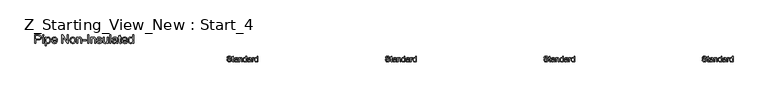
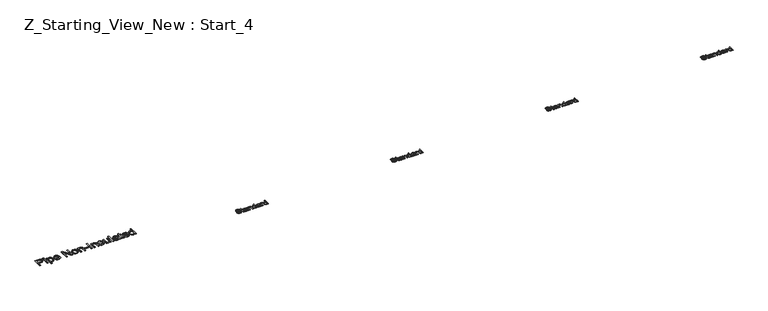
"""IFC4 building model written with IfcOpenShell, lengths in millimetres: pipe fitting geometry, Z_Starting_View_New : Start_4."""

from ifc_helpers import new_model, si_unit, origin, origin_with_axes, place, context, project, spatial, polyline, outline, extrude, source, transform, mapped, element, save


def z_starting_view_new_start_4_688b219d(model_context):
    return source(origin(), model_context, "Body", "SweptSolid", [
        extrude(outline(polyline([(21762.9874325, 7445.7857303), (21762.9874325, 7596.4701955), (21818.8319194, 7596.4701955), (21841.3462975, 7595.0354557), (21859.6484268, 7587.9905155), (21871.5126211, 7573.4223885), (21876.0007815, 7552.8761791), (21872.9703535, 7535.1166757), (21863.8790697, 7520.3186225), (21846.878323, 7510.3306263), (21820.1195064, 7507.0012943), (21781.8229907, 7507.0012943), (21781.8229907, 7445.7857303), (21762.9874325, 7445.7857303)]), holes=[polyline([(21781.8229907, 7525.8368524), (21821.2231524, 7525.8368524), (21837.924995, 7527.5658978), (21848.9614548, 7532.7530339), (21855.1142812, 7541.0763641), (21857.1652233, 7552.2139915), (21852.3275751, 7567.8121881), (21839.6172521, 7576.3470504), (21820.781694, 7577.6346373), (21781.8229907, 7577.6346373), (21781.8229907, 7525.8368524)])]), origin_with_axes(), (0.0, 0.0, 1.0), 5.0),
        extrude(outline(polyline([(21899.5452292, 7445.7857303), (21899.5452292, 7556.4446344), (21918.3807873, 7556.4446344), (21918.3807873, 7445.7857303), (21899.5452292, 7445.7857303)])), origin_with_axes(), (0.0, 0.0, 1.0), 5.0),
        extrude(outline(polyline([(21899.5452292, 7577.6346373), (21899.5452292, 7596.4701955), (21918.3807873, 7596.4701955), (21918.3807873, 7577.6346373), (21899.5452292, 7577.6346373)])), origin_with_axes(), (0.0, 0.0, 1.0), 5.0),
        extrude(outline(polyline([(21946.6341245, 7403.4057244), (21946.6341245, 7556.4446344), (21965.4696827, 7556.4446344), (21965.4696827, 7537.9769583), (21978.4927053, 7553.593549), (21996.0774647, 7558.7990792), (22008.8153788, 7556.9780633), (22019.9530062, 7551.5150157), (22029.0212974, 7542.7410301), (22035.5512028, 7530.9872003), (22040.8119153, 7501.9613109), (22039.3265917, 7485.8526781), (22034.8706211, 7471.4454994), (22027.5865576, 7459.4709405), (22017.6169555, 7450.6601667), (22006.00568, 7445.2385058), (21993.7965963, 7443.4312855), (21977.4074534, 7448.2689337), (21965.4696827, 7460.5010101), (21965.4696827, 7403.4057244), (21946.6341245, 7403.4057244)]), holes=[polyline([(21965.4696827, 7500.2322656), (21967.5068292, 7483.346482), (21973.6182689, 7471.5374699), (21982.6359763, 7464.5845002), (21993.3919261, 7462.2668436), (22004.3226199, 7464.6672737), (22013.5702536, 7471.8685637), (22019.8748313, 7484.1098371), (22021.9763572, 7501.6302171), (22019.925415, 7518.4240302), (22013.7725887, 7530.3985892), (22004.7686768, 7537.5722881), (21994.1644783, 7539.963521), (21983.5188931, 7537.4205367), (21974.1700919, 7529.7915839), (21967.644785, 7517.3157857), (21965.4696827, 7500.2322656)])]), origin_with_axes(), (0.0, 0.0, 1.0), 5.0),
        extrude(outline(polyline([(22139.4778664, 7478.747957), (22157.9455426, 7476.3935123), (22151.291477, 7462.4783758), (22140.6734829, 7452.0765124), (22126.3306836, 7445.5925922), (22108.5022024, 7443.4312855), (22086.4016916, 7447.1606892), (22069.3963463, 7458.3489004), (22058.5530245, 7476.2693521), (22054.9385839, 7500.1954774), (22058.5898127, 7524.9263445), (22069.5434991, 7543.4216118), (22086.3189181, 7554.9547123), (22107.4353446, 7558.7990792), (22127.8941821, 7554.9639094), (22144.2419382, 7543.4584), (22154.9610999, 7524.9999209), (22158.5341538, 7500.305842), (22158.4237892, 7495.2290704), (22073.7741421, 7495.2290704), (22077.0344963, 7481.129993), (22084.6082668, 7470.7649177), (22095.5389606, 7464.3913622), (22108.8700844, 7462.2668436), (22127.3377606, 7466.203181), (22139.4778664, 7478.747957)]), holes=[polyline([(22073.7741421, 7514.0646286), (22139.6985956, 7514.0646286), (22137.1510128, 7524.0158365), (22132.1570147, 7531.1343531), (22121.1757371, 7537.7562291), (22107.3617682, 7539.963521), (22094.6652409, 7538.202286), (22084.1668084, 7532.9185808), (22076.8689494, 7524.6826227), (22073.7741421, 7514.0646286)])]), origin_with_axes(), (0.0, 0.0, 1.0), 5.0),
        extrude(outline(polyline([(22238.5852759, 7445.7857303), (22238.5852759, 7596.4701955), (22258.7452092, 7596.4701955), (22337.4719562, 7477.0924881), (22337.4719562, 7596.4701955), (22356.3075144, 7596.4701955), (22356.3075144, 7445.7857303), (22336.147581, 7445.7857303), (22257.4208341, 7565.2002259), (22257.4208341, 7445.7857303), (22238.5852759, 7445.7857303)])), origin_with_axes(), (0.0, 0.0, 1.0), 5.0),
        extrude(outline(polyline([(22382.2064068, 7501.1151823), (22386.2806999, 7527.795824), (22398.5035792, 7546.5486087), (22413.6051351, 7555.7364616), (22431.6865352, 7558.7990792), (22451.473988, 7555.0696755), (22467.2791182, 7543.8814643), (22477.6395949, 7526.1173624), (22481.0930871, 7502.6602867), (22479.5663769, 7483.6315905), (22474.986246, 7469.146237), (22467.4860518, 7458.2983166), (22457.1991515, 7450.1819201), (22444.9808708, 7445.1189441), (22431.6865352, 7443.4312855), (22411.6599591, 7447.1468936), (22395.8732229, 7458.2937181), (22385.6231109, 7476.4303005), (22382.2064068, 7501.1151823)]), holes=[polyline([(22401.041965, 7501.1519705), (22403.2216658, 7484.1052386), (22409.7607683, 7471.9605342), (22419.6016116, 7464.6902663), (22431.6865352, 7462.2668436), (22443.7162764, 7464.7040619), (22453.5387257, 7472.0157165), (22460.0778282, 7484.3213693), (22462.257529, 7501.7405817), (22460.0640326, 7518.290673), (22453.4835434, 7530.2698305), (22443.6472985, 7537.5400984), (22431.6865352, 7539.963521), (22419.6016116, 7537.5492954), (22409.7607683, 7530.3066187), (22403.2216658, 7518.1895054), (22401.041965, 7501.1519705)])]), origin_with_axes(), (0.0, 0.0, 1.0), 5.0),
        extrude(outline(polyline([(22502.2830901, 7445.7857303), (22502.2830901, 7556.4446344), (22521.1186482, 7556.4446344), (22521.1186482, 7540.9935906), (22535.5212283, 7554.347707), (22555.184521, 7558.7990792), (22572.9716154, 7555.2122297), (22585.1117213, 7545.7944507), (22590.7587099, 7531.9436935), (22591.7519913, 7513.7335348), (22591.7519913, 7445.7857303), (22572.9164331, 7445.7857303), (22572.9164331, 7511.195149), (22570.7459294, 7527.8602034), (22563.0755898, 7536.6709772), (22550.1445376, 7539.963521), (22539.1126763, 7538.114914), (22529.7086928, 7532.5690929), (22523.2661594, 7521.8545298), (22521.1186482, 7504.4996967), (22521.1186482, 7445.7857303), (22502.2830901, 7445.7857303)])), origin_with_axes(), (0.0, 0.0, 1.0), 5.0),
        extrude(outline(polyline([(22608.2331047, 7490.5201809), (22608.2331047, 7509.355739), (22667.0942239, 7509.355739), (22667.0942239, 7490.5201809), (22608.2331047, 7490.5201809)])), origin_with_axes(), (0.0, 0.0, 1.0), 5.0),
        extrude(outline(polyline([(22692.9931164, 7445.7857303), (22692.9931164, 7596.4701955), (22711.8286745, 7596.4701955), (22711.8286745, 7445.7857303), (22692.9931164, 7445.7857303)])), origin_with_axes(), (0.0, 0.0, 1.0), 5.0),
        extrude(outline(polyline([(22747.145346, 7445.7857303), (22747.145346, 7556.4446344), (22765.9809042, 7556.4446344), (22765.9809042, 7540.9935906), (22780.3834843, 7554.347707), (22800.0467769, 7558.7990792), (22817.8338714, 7555.2122297), (22829.9739773, 7545.7944507), (22835.6209659, 7531.9436935), (22836.6142473, 7513.7335348), (22836.6142473, 7445.7857303), (22817.7786891, 7445.7857303), (22817.7786891, 7511.195149), (22815.6081853, 7527.8602034), (22807.9378457, 7536.6709772), (22795.0067936, 7539.963521), (22783.9749323, 7538.114914), (22774.5709488, 7532.5690929), (22768.1284153, 7521.8545298), (22765.9809042, 7504.4996967), (22765.9809042, 7445.7857303), (22747.145346, 7445.7857303)])), origin_with_axes(), (0.0, 0.0, 1.0), 5.0),
        extrude(outline(polyline([(22855.4498054, 7478.747957), (22874.2853636, 7481.1024018), (22877.2560107, 7473.0457861), (22883.0041669, 7467.122886), (22902.9801592, 7462.2668436), (22922.1835993, 7466.7182158), (22928.4375933, 7477.1660645), (22926.8648977, 7481.9669245), (22922.1468111, 7485.6273503), (22902.75943, 7490.9984275), (22874.3957282, 7500.2138715), (22862.016499, 7510.9744198), (22857.8042502, 7526.1679462), (22861.1887645, 7540.2026443), (22870.4226026, 7550.9264045), (22882.3971616, 7556.4998167), (22898.6023635, 7558.7990792), (22921.5214118, 7555.1018651), (22936.0895388, 7545.0954749), (22942.5642619, 7528.1912972), (22923.7287037, 7525.8368524), (22916.6469753, 7536.2295188), (22900.0738914, 7539.963521), (22882.0476737, 7536.3950657), (22876.6398083, 7528.0809326), (22878.8838885, 7522.5994909), (22885.9104346, 7518.4424243), (22902.1340306, 7514.4325106), (22929.7803625, 7505.5665545), (22942.6194442, 7495.523376), (22947.2731514, 7479.1526272), (22941.8101038, 7461.1264095), (22926.0463603, 7448.0482045), (22902.7226418, 7443.4312855), (22883.7307338, 7445.6569716), (22869.8707796, 7452.3340298), (22860.6185475, 7463.3888837), (22855.4498054, 7478.747957)])), origin_with_axes(), (0.0, 0.0, 1.0), 5.0),
        extrude(outline(polyline([(23039.0964974, 7445.7857303), (23039.0964974, 7464.8052294), (23024.3444294, 7448.7747715), (23005.1042011, 7443.4312855), (22987.390683, 7447.1836818), (22975.1770008, 7456.6014609), (22969.5668003, 7470.4706121), (22968.4631543, 7487.9817951), (22968.4631543, 7556.4446344), (22987.2987125, 7556.4446344), (22987.2987125, 7496.8477512), (22988.4391467, 7477.644311), (22995.8887571, 7466.3687279), (23009.9234552, 7462.2668436), (23025.6504105, 7466.4606984), (23036.0430769, 7477.8834343), (23039.0964974, 7498.8711022), (23039.0964974, 7556.4446344), (23057.9320556, 7556.4446344), (23057.9320556, 7445.7857303), (23039.0964974, 7445.7857303)])), origin_with_axes(), (0.0, 0.0, 1.0), 5.0),
        extrude(outline(polyline([(23083.830948, 7445.7857303), (23083.830948, 7596.4701955), (23102.6665062, 7596.4701955), (23102.6665062, 7445.7857303), (23083.830948, 7445.7857303)])), origin_with_axes(), (0.0, 0.0, 1.0), 5.0),
        extrude(outline(polyline([(23201.5531865, 7459.9123989), (23183.2878454, 7447.1468936), (23163.109518, 7443.4312855), (23147.3687671, 7445.6661686), (23135.7574916, 7452.370818), (23128.5975883, 7462.5519522), (23126.2109539, 7475.2162899), (23129.8161974, 7490.1155107), (23139.2891588, 7500.9312413), (23152.4777283, 7507.1116589), (23168.7749007, 7509.9443502), (23201.4428219, 7516.4190733), (23201.5531865, 7520.6129281), (23200.2564025, 7529.0190317), (23196.3660504, 7534.5188675), (23187.6656412, 7538.6023576), (23175.5439294, 7539.963521), (23156.4876421, 7536.3398834), (23147.4009568, 7523.4824076), (23128.5653986, 7525.8368524), (23136.7139848, 7544.2309522), (23153.1215218, 7555.0098946), (23177.9719506, 7558.7990792), (23200.7990284, 7555.451353), (23213.6932923, 7547.0452494), (23219.4690397, 7534.2613501), (23220.3887446, 7517.7802367), (23220.3887446, 7494.3461536), (23221.3452378, 7461.6230502), (23225.0976342, 7445.7857303), (23206.262076, 7445.7857303), (23201.5531865, 7459.9123989)]), holes=[polyline([(23201.5531865, 7497.5835152), (23171.1661337, 7491.8077679), (23154.9609318, 7488.7543473), (23147.621686, 7483.7879404), (23145.046512, 7476.5406651), (23150.6567125, 7466.3503338), (23167.1194317, 7462.2668436), (23186.1757191, 7466.7733981), (23198.4629777, 7477.6810992), (23201.4428219, 7492.2492263), (23201.5531865, 7497.5835152)])]), origin_with_axes(), (0.0, 0.0, 1.0), 5.0),
        extrude(outline(polyline([(23286.3131982, 7461.4942915), (23288.6676429, 7445.2339073), (23274.5777625, 7443.4312855), (23258.7956249, 7446.5582825), (23250.9229502, 7454.7620509), (23248.6420819, 7476.1359949), (23248.6420819, 7537.6090763), (23234.5154133, 7537.6090763), (23234.5154133, 7556.4446344), (23248.6420819, 7556.4446344), (23248.6420819, 7583.3368083), (23267.47764, 7594.4100563), (23267.47764, 7556.4446344), (23286.3131982, 7556.4446344), (23286.3131982, 7537.6090763), (23267.47764, 7537.6090763), (23267.47764, 7476.6878179), (23268.4709214, 7466.9757332), (23271.6898889, 7463.5360365), (23278.1094297, 7462.2668436), (23286.3131982, 7461.4942915)])), origin_with_axes(), (0.0, 0.0, 1.0), 5.0),
        extrude(outline(polyline([(23382.6247045, 7478.747957), (23401.0923807, 7476.3935123), (23394.4383151, 7462.4783758), (23383.820321, 7452.0765124), (23369.4775217, 7445.5925922), (23351.6490405, 7443.4312855), (23329.5485297, 7447.1606892), (23312.5431844, 7458.3489004), (23301.6998626, 7476.2693521), (23298.085422, 7500.1954774), (23301.7366508, 7524.9263445), (23312.6903372, 7543.4216118), (23329.4657562, 7554.9547123), (23350.5821827, 7558.7990792), (23371.0410202, 7554.9639094), (23387.3887763, 7543.4584), (23398.107938, 7524.9999209), (23401.6809919, 7500.305842), (23401.5706273, 7495.2290704), (23316.9209802, 7495.2290704), (23320.1813344, 7481.129993), (23327.7551049, 7470.7649177), (23338.6857987, 7464.3913622), (23352.0169225, 7462.2668436), (23370.4845987, 7466.203181), (23382.6247045, 7478.747957)]), holes=[polyline([(23316.9209802, 7514.0646286), (23382.8454337, 7514.0646286), (23380.2978509, 7524.0158365), (23375.3038528, 7531.1343531), (23364.3225753, 7537.7562291), (23350.5086063, 7539.963521), (23337.812079, 7538.202286), (23327.3136465, 7532.9185808), (23320.0157875, 7524.6826227), (23316.9209802, 7514.0646286)])]), origin_with_axes(), (0.0, 0.0, 1.0), 5.0),
        extrude(outline(polyline([(23488.7954483, 7445.7857303), (23488.7954483, 7463.5544306), (23476.3334457, 7448.4620718), (23459.1073713, 7443.4312855), (23446.9304773, 7445.2523014), (23435.7836528, 7450.715349), (23426.3474796, 7459.4387508), (23419.3025394, 7471.0408292), (23414.9155466, 7485.0525347), (23413.4532157, 7501.0048177), (23418.8426869, 7530.9872003), (23425.5749274, 7542.8789858), (23434.9927065, 7551.6253803), (23446.3832528, 7557.0056545), (23459.0337949, 7558.7990792), (23476.3978251, 7553.6671254), (23488.7954483, 7540.331403), (23488.7954483, 7596.4701955), (23507.6310065, 7596.4701955), (23507.6310065, 7445.7857303), (23488.7954483, 7445.7857303)]), holes=[polyline([(23432.2887739, 7501.0783941), (23434.4132924, 7484.0408592), (23440.7868479, 7471.923746), (23450.0482772, 7464.6810692), (23460.8364167, 7462.2668436), (23471.6199577, 7464.5707046), (23480.6468621, 7471.4822876), (23486.7583018, 7483.1303513), (23488.7954483, 7499.6436544), (23486.7215136, 7517.6974633), (23480.4997093, 7530.2146482), (23471.2428786, 7537.5263028), (23460.0638645, 7539.963521), (23449.1653604, 7537.6228718), (23440.235025, 7530.6009243), (23434.2753366, 7518.5389933), (23432.2887739, 7501.0783941)])]), origin_with_axes(), (0.0, 0.0, 1.0), 5.0),
        extrude(outline(polyline([(30758.6619591, 7155.3175869), (30771.2189979, 7155.3175869), (30775.2656999, 7142.7482854), (30785.1494628, 7134.8020343), (30800.2080991, 7131.7731392), (30813.3292236, 7134.0662703), (30821.8027722, 7140.3693151), (30824.5864127, 7148.7938128), (30822.501748, 7156.6296993), (30813.9668857, 7162.3318703), (30795.6831506, 7167.1265989), (30776.0014638, 7173.3192792), (30765.3206232, 7182.6634819), (30761.8012188, 7195.1469442), (30766.1544891, 7209.359452), (30778.8709434, 7219.3903677), (30797.4857724, 7222.8116703), (30817.3514001, 7219.2309522), (30830.5951519, 7208.7095271), (30835.5738216, 7192.9887032), (30823.0167828, 7192.9887032), (30820.711389, 7200.4812332), (30815.9043976, 7205.8890985), (30797.9762817, 7210.2546315), (30779.9991149, 7205.9381494), (30774.3582576, 7195.5148262), (30778.3559086, 7186.8082857), (30798.8591985, 7179.7940023), (30821.079271, 7173.4909574), (30833.2316396, 7163.3128889), (30837.1434514, 7149.1126439), (30832.6430284, 7134.0907958), (30819.6935821, 7123.1279123), (30800.6986085, 7119.2161004), (30778.2700695, 7123.4344806), (30764.0820872, 7136.1386722), (30758.6619591, 7155.3175869)])), origin_with_axes(), (0.0, 0.0, 1.0), 5.0),
        extrude(outline(polyline([(30881.0930871, 7131.2581044), (30882.662717, 7120.4178483), (30873.2694634, 7119.2161004), (30862.7480383, 7121.3007651), (30857.4995885, 7126.7699441), (30855.9790096, 7141.01924), (30855.9790096, 7182.0012943), (30846.5612305, 7182.0012943), (30846.5612305, 7194.558333), (30855.9790096, 7194.558333), (30855.9790096, 7212.4864489), (30868.5360484, 7219.8686143), (30868.5360484, 7194.558333), (30881.0930871, 7194.558333), (30881.0930871, 7182.0012943), (30868.5360484, 7182.0012943), (30868.5360484, 7141.387122), (30869.198236, 7134.9123989), (30871.3442143, 7132.6192678), (30875.6239081, 7131.7731392), (30881.0930871, 7131.2581044)])), origin_with_axes(), (0.0, 0.0, 1.0), 5.0),
        extrude(outline(polyline([(30940.7390213, 7130.2035093), (30928.5621272, 7121.6931725), (30915.109909, 7119.2161004), (30904.616075, 7120.7060225), (30896.8752247, 7125.1757887), (30892.1019558, 7131.9632116), (30890.5108662, 7140.4061033), (30892.9143619, 7150.3389172), (30899.2296695, 7157.5494043), (30908.0220492, 7161.6696827), (30918.8868308, 7163.5581436), (30940.6654449, 7167.8746256), (30940.7390213, 7170.6705288), (30937.2809305, 7179.9411551), (30923.3995166, 7183.5709241), (30910.695325, 7181.1551657), (30904.6375348, 7172.5835152), (30892.0804961, 7174.153145), (30897.5128868, 7186.4158782), (30908.4512448, 7193.6018398), (30925.0181974, 7196.1279629), (30940.2362492, 7193.8961454), (30948.8324252, 7188.2920764), (30952.6829234, 7179.7694768), (30953.2960601, 7168.7820679), (30953.2960601, 7153.1593458), (30953.9337222, 7131.3439435), (30956.4353197, 7120.7857303), (30943.878281, 7120.7857303), (30940.7390213, 7130.2035093)]), holes=[polyline([(30940.7390213, 7155.3175869), (30920.4809861, 7151.4670887), (30909.6775182, 7149.431475), (30904.7846876, 7146.120537), (30903.067905, 7141.2890201), (30906.8080386, 7134.495466), (30917.7831848, 7131.7731392), (30930.4873764, 7134.7775088), (30938.6788821, 7142.0493096), (30940.6654449, 7151.7613943), (30940.7390213, 7155.3175869)])]), origin_with_axes(), (0.0, 0.0, 1.0), 5.0),
        extrude(outline(polyline([(30970.5619884, 7120.7857303), (30970.5619884, 7194.558333), (30983.1190271, 7194.558333), (30983.1190271, 7184.2576372), (30992.7207472, 7193.1603815), (31005.829609, 7196.1279629), (31017.6876719, 7193.7367299), (31025.7810758, 7187.4582105), (31029.5457349, 7178.2243724), (31030.2079225, 7166.0842666), (31030.2079225, 7120.7857303), (31017.6508837, 7120.7857303), (31017.6508837, 7164.3920094), (31016.2038812, 7175.5020457), (31011.0903215, 7181.3758949), (31002.4696201, 7183.5709241), (30988.8457235, 7178.6413054), (30984.5507012, 7171.4982633), (30983.1190271, 7159.9283746), (30983.1190271, 7120.7857303), (30970.5619884, 7120.7857303)])), origin_with_axes(), (0.0, 0.0, 1.0), 5.0),
        extrude(outline(polyline([(31092.9931164, 7120.7857303), (31092.9931164, 7132.6315305), (31084.6851146, 7122.5699579), (31073.201065, 7119.2161004), (31057.6519193, 7124.0721428), (31046.6645104, 7137.6224629), (31042.7649613, 7157.5984553), (31046.3579421, 7177.5867103), (31057.1246218, 7191.3454969), (31073.1520141, 7196.1279629), (31084.7280342, 7192.7066603), (31092.9931164, 7183.8161788), (31092.9931164, 7221.2420404), (31105.5501551, 7221.2420404), (31105.5501551, 7120.7857303), (31092.9931164, 7120.7857303)]), holes=[polyline([(31055.322, 7157.6475062), (31056.7383457, 7146.2891496), (31060.9873828, 7138.2110741), (31067.1616689, 7133.3826229), (31074.3537619, 7131.7731392), (31081.5427893, 7133.3090465), (31087.5607256, 7137.9167685), (31091.6350187, 7145.6821443), (31092.9931164, 7156.691013), (31091.6104932, 7168.7268856), (31087.4626237, 7177.0716755), (31081.2914032, 7181.946112), (31073.8387271, 7183.5709241), (31066.5730577, 7182.0104913), (31060.6195008, 7177.3291929), (31056.6463752, 7169.2879056), (31055.322, 7157.6475062)])]), origin_with_axes(), (0.0, 0.0, 1.0), 5.0),
        extrude(outline(polyline([(31171.4746087, 7130.2035093), (31159.2977146, 7121.6931725), (31145.8454963, 7119.2161004), (31135.3516624, 7120.7060225), (31127.6108121, 7125.1757887), (31122.8375432, 7131.9632116), (31121.2464536, 7140.4061033), (31123.6499493, 7150.3389172), (31129.9652569, 7157.5494043), (31138.7576366, 7161.6696827), (31149.6224181, 7163.5581436), (31171.4010323, 7167.8746256), (31171.4746087, 7170.6705288), (31168.0165179, 7179.9411551), (31154.135104, 7183.5709241), (31141.4309124, 7181.1551657), (31135.3731222, 7172.5835152), (31122.8160834, 7174.153145), (31128.2484742, 7186.4158782), (31139.1868322, 7193.6018398), (31155.7537847, 7196.1279629), (31170.9718366, 7193.8961454), (31179.5680126, 7188.2920764), (31183.4185108, 7179.7694768), (31184.0316474, 7168.7820679), (31184.0316474, 7153.1593458), (31184.6693096, 7131.3439435), (31187.1709071, 7120.7857303), (31174.6138683, 7120.7857303), (31171.4746087, 7130.2035093)]), holes=[polyline([(31171.4746087, 7155.3175869), (31151.2165735, 7151.4670887), (31140.4131055, 7149.431475), (31135.520275, 7146.120537), (31133.8034924, 7141.2890201), (31137.543626, 7134.495466), (31148.5187722, 7131.7731392), (31161.2229637, 7134.7775088), (31169.4144695, 7142.0493096), (31171.4010323, 7151.7613943), (31171.4746087, 7155.3175869)])]), origin_with_axes(), (0.0, 0.0, 1.0), 5.0),
        extrude(outline(polyline([(31201.2975757, 7120.7857303), (31201.2975757, 7194.558333), (31212.2849847, 7194.558333), (31212.2849847, 7183.6445005), (31220.084083, 7193.6999417), (31227.9322322, 7196.1279629), (31240.5383219, 7192.2529392), (31236.3444671, 7180.9957501), (31227.5152993, 7183.5709241), (31220.4151767, 7181.093852), (31215.8902282, 7174.2267214), (31213.8546145, 7159.5604926), (31213.8546145, 7120.7857303), (31201.2975757, 7120.7857303)])), origin_with_axes(), (0.0, 0.0, 1.0), 5.0),
        extrude(outline(polyline([(31293.9057367, 7120.7857303), (31293.9057367, 7132.6315305), (31285.5977349, 7122.5699579), (31274.1136853, 7119.2161004), (31258.5645396, 7124.0721428), (31247.5771307, 7137.6224629), (31243.6775816, 7157.5984553), (31247.2705624, 7177.5867103), (31258.0372421, 7191.3454969), (31274.0646344, 7196.1279629), (31285.6406545, 7192.7066603), (31293.9057367, 7183.8161788), (31293.9057367, 7221.2420404), (31306.4627754, 7221.2420404), (31306.4627754, 7120.7857303), (31293.9057367, 7120.7857303)]), holes=[polyline([(31256.2346203, 7157.6475062), (31257.650966, 7146.2891496), (31261.9000031, 7138.2110741), (31268.0742892, 7133.3826229), (31275.2663822, 7131.7731392), (31282.4554096, 7133.3090465), (31288.4733459, 7137.9167685), (31292.547639, 7145.6821443), (31293.9057367, 7156.691013), (31292.5231135, 7168.7268856), (31288.375244, 7177.0716755), (31282.2040235, 7181.946112), (31274.7513474, 7183.5709241), (31267.485678, 7182.0104913), (31261.5321211, 7177.3291929), (31257.5589955, 7169.2879056), (31256.2346203, 7157.6475062)])]), origin_with_axes(), (0.0, 0.0, 1.0), 5.0),
        extrude(outline(polyline([(27958.6619591, 7155.3175869), (27971.2189979, 7155.3175869), (27975.2656999, 7142.7482854), (27985.1494628, 7134.8020343), (28000.2080991, 7131.7731392), (28013.3292236, 7134.0662703), (28021.8027722, 7140.3693151), (28024.5864127, 7148.7938128), (28022.501748, 7156.6296993), (28013.9668857, 7162.3318703), (27995.6831506, 7167.1265989), (27976.0014638, 7173.3192792), (27965.3206232, 7182.6634819), (27961.8012188, 7195.1469442), (27966.1544891, 7209.359452), (27978.8709434, 7219.3903677), (27997.4857724, 7222.8116703), (28017.3514001, 7219.2309522), (28030.5951519, 7208.7095271), (28035.5738216, 7192.9887032), (28023.0167828, 7192.9887032), (28020.711389, 7200.4812332), (28015.9043976, 7205.8890985), (27997.9762817, 7210.2546315), (27979.9991149, 7205.9381494), (27974.3582576, 7195.5148262), (27978.3559086, 7186.8082857), (27998.8591985, 7179.7940023), (28021.079271, 7173.4909574), (28033.2316396, 7163.3128889), (28037.1434514, 7149.1126439), (28032.6430284, 7134.0907958), (28019.6935821, 7123.1279123), (28000.6986085, 7119.2161004), (27978.2700695, 7123.4344806), (27964.0820872, 7136.1386722), (27958.6619591, 7155.3175869)])), origin_with_axes(), (0.0, 0.0, 1.0), 5.0),
        extrude(outline(polyline([(28081.0930871, 7131.2581044), (28082.662717, 7120.4178483), (28073.2694634, 7119.2161004), (28062.7480383, 7121.3007651), (28057.4995885, 7126.7699441), (28055.9790096, 7141.01924), (28055.9790096, 7182.0012943), (28046.5612305, 7182.0012943), (28046.5612305, 7194.558333), (28055.9790096, 7194.558333), (28055.9790096, 7212.4864489), (28068.5360484, 7219.8686143), (28068.5360484, 7194.558333), (28081.0930871, 7194.558333), (28081.0930871, 7182.0012943), (28068.5360484, 7182.0012943), (28068.5360484, 7141.387122), (28069.198236, 7134.9123989), (28071.3442143, 7132.6192678), (28075.6239081, 7131.7731392), (28081.0930871, 7131.2581044)])), origin_with_axes(), (0.0, 0.0, 1.0), 5.0),
        extrude(outline(polyline([(28140.7390213, 7130.2035093), (28128.5621272, 7121.6931725), (28115.109909, 7119.2161004), (28104.616075, 7120.7060225), (28096.8752247, 7125.1757887), (28092.1019558, 7131.9632116), (28090.5108662, 7140.4061033), (28092.9143619, 7150.3389172), (28099.2296695, 7157.5494043), (28108.0220492, 7161.6696827), (28118.8868308, 7163.5581436), (28140.6654449, 7167.8746256), (28140.7390213, 7170.6705288), (28137.2809305, 7179.9411551), (28123.3995166, 7183.5709241), (28110.695325, 7181.1551657), (28104.6375348, 7172.5835152), (28092.0804961, 7174.153145), (28097.5128868, 7186.4158782), (28108.4512448, 7193.6018398), (28125.0181974, 7196.1279629), (28140.2362492, 7193.8961454), (28148.8324252, 7188.2920764), (28152.6829234, 7179.7694768), (28153.2960601, 7168.7820679), (28153.2960601, 7153.1593458), (28153.9337222, 7131.3439435), (28156.4353197, 7120.7857303), (28143.878281, 7120.7857303), (28140.7390213, 7130.2035093)]), holes=[polyline([(28140.7390213, 7155.3175869), (28120.4809861, 7151.4670887), (28109.6775182, 7149.431475), (28104.7846876, 7146.120537), (28103.067905, 7141.2890201), (28106.8080386, 7134.495466), (28117.7831848, 7131.7731392), (28130.4873764, 7134.7775088), (28138.6788821, 7142.0493096), (28140.6654449, 7151.7613943), (28140.7390213, 7155.3175869)])]), origin_with_axes(), (0.0, 0.0, 1.0), 5.0),
        extrude(outline(polyline([(28170.5619884, 7120.7857303), (28170.5619884, 7194.558333), (28183.1190271, 7194.558333), (28183.1190271, 7184.2576372), (28192.7207472, 7193.1603815), (28205.829609, 7196.1279629), (28217.6876719, 7193.7367299), (28225.7810758, 7187.4582105), (28229.5457349, 7178.2243724), (28230.2079225, 7166.0842666), (28230.2079225, 7120.7857303), (28217.6508837, 7120.7857303), (28217.6508837, 7164.3920094), (28216.2038812, 7175.5020457), (28211.0903215, 7181.3758949), (28202.4696201, 7183.5709241), (28188.8457235, 7178.6413054), (28184.5507012, 7171.4982633), (28183.1190271, 7159.9283746), (28183.1190271, 7120.7857303), (28170.5619884, 7120.7857303)])), origin_with_axes(), (0.0, 0.0, 1.0), 5.0),
        extrude(outline(polyline([(28292.9931164, 7120.7857303), (28292.9931164, 7132.6315305), (28284.6851146, 7122.5699579), (28273.201065, 7119.2161004), (28257.6519193, 7124.0721428), (28246.6645104, 7137.6224629), (28242.7649613, 7157.5984553), (28246.3579421, 7177.5867103), (28257.1246218, 7191.3454969), (28273.1520141, 7196.1279629), (28284.7280342, 7192.7066603), (28292.9931164, 7183.8161788), (28292.9931164, 7221.2420404), (28305.5501551, 7221.2420404), (28305.5501551, 7120.7857303), (28292.9931164, 7120.7857303)]), holes=[polyline([(28255.322, 7157.6475062), (28256.7383457, 7146.2891496), (28260.9873828, 7138.2110741), (28267.1616689, 7133.3826229), (28274.3537619, 7131.7731392), (28281.5427893, 7133.3090465), (28287.5607256, 7137.9167685), (28291.6350187, 7145.6821443), (28292.9931164, 7156.691013), (28291.6104932, 7168.7268856), (28287.4626237, 7177.0716755), (28281.2914032, 7181.946112), (28273.8387271, 7183.5709241), (28266.5730577, 7182.0104913), (28260.6195008, 7177.3291929), (28256.6463752, 7169.2879056), (28255.322, 7157.6475062)])]), origin_with_axes(), (0.0, 0.0, 1.0), 5.0),
        extrude(outline(polyline([(28371.4746087, 7130.2035093), (28359.2977146, 7121.6931725), (28345.8454963, 7119.2161004), (28335.3516624, 7120.7060225), (28327.6108121, 7125.1757887), (28322.8375432, 7131.9632116), (28321.2464536, 7140.4061033), (28323.6499493, 7150.3389172), (28329.9652569, 7157.5494043), (28338.7576366, 7161.6696827), (28349.6224181, 7163.5581436), (28371.4010323, 7167.8746256), (28371.4746087, 7170.6705288), (28368.0165179, 7179.9411551), (28354.135104, 7183.5709241), (28341.4309124, 7181.1551657), (28335.3731222, 7172.5835152), (28322.8160834, 7174.153145), (28328.2484742, 7186.4158782), (28339.1868322, 7193.6018398), (28355.7537847, 7196.1279629), (28370.9718366, 7193.8961454), (28379.5680126, 7188.2920764), (28383.4185108, 7179.7694768), (28384.0316474, 7168.7820679), (28384.0316474, 7153.1593458), (28384.6693096, 7131.3439435), (28387.1709071, 7120.7857303), (28374.6138683, 7120.7857303), (28371.4746087, 7130.2035093)]), holes=[polyline([(28371.4746087, 7155.3175869), (28351.2165735, 7151.4670887), (28340.4131055, 7149.431475), (28335.520275, 7146.120537), (28333.8034924, 7141.2890201), (28337.543626, 7134.495466), (28348.5187722, 7131.7731392), (28361.2229637, 7134.7775088), (28369.4144695, 7142.0493096), (28371.4010323, 7151.7613943), (28371.4746087, 7155.3175869)])]), origin_with_axes(), (0.0, 0.0, 1.0), 5.0),
        extrude(outline(polyline([(28401.2975757, 7120.7857303), (28401.2975757, 7194.558333), (28412.2849847, 7194.558333), (28412.2849847, 7183.6445005), (28420.084083, 7193.6999417), (28427.9322322, 7196.1279629), (28440.5383219, 7192.2529392), (28436.3444671, 7180.9957501), (28427.5152993, 7183.5709241), (28420.4151767, 7181.093852), (28415.8902282, 7174.2267214), (28413.8546145, 7159.5604926), (28413.8546145, 7120.7857303), (28401.2975757, 7120.7857303)])), origin_with_axes(), (0.0, 0.0, 1.0), 5.0),
        extrude(outline(polyline([(28493.9057367, 7120.7857303), (28493.9057367, 7132.6315305), (28485.5977349, 7122.5699579), (28474.1136853, 7119.2161004), (28458.5645396, 7124.0721428), (28447.5771307, 7137.6224629), (28443.6775816, 7157.5984553), (28447.2705624, 7177.5867103), (28458.0372421, 7191.3454969), (28474.0646344, 7196.1279629), (28485.6406545, 7192.7066603), (28493.9057367, 7183.8161788), (28493.9057367, 7221.2420404), (28506.4627754, 7221.2420404), (28506.4627754, 7120.7857303), (28493.9057367, 7120.7857303)]), holes=[polyline([(28456.2346203, 7157.6475062), (28457.650966, 7146.2891496), (28461.9000031, 7138.2110741), (28468.0742892, 7133.3826229), (28475.2663822, 7131.7731392), (28482.4554096, 7133.3090465), (28488.4733459, 7137.9167685), (28492.547639, 7145.6821443), (28493.9057367, 7156.691013), (28492.5231135, 7168.7268856), (28488.375244, 7177.0716755), (28482.2040235, 7181.946112), (28474.7513474, 7183.5709241), (28467.485678, 7182.0104913), (28461.5321211, 7177.3291929), (28457.5589955, 7169.2879056), (28456.2346203, 7157.6475062)])]), origin_with_axes(), (0.0, 0.0, 1.0), 5.0),
        extrude(outline(polyline([(25158.6619591, 7155.3175869), (25171.2189979, 7155.3175869), (25175.2656999, 7142.7482854), (25185.1494628, 7134.8020343), (25200.2080991, 7131.7731392), (25213.3292236, 7134.0662703), (25221.8027722, 7140.3693151), (25224.5864127, 7148.7938128), (25222.501748, 7156.6296993), (25213.9668857, 7162.3318703), (25195.6831506, 7167.1265989), (25176.0014638, 7173.3192792), (25165.3206232, 7182.6634819), (25161.8012188, 7195.1469442), (25166.1544891, 7209.359452), (25178.8709434, 7219.3903677), (25197.4857724, 7222.8116703), (25217.3514001, 7219.2309522), (25230.5951519, 7208.7095271), (25235.5738216, 7192.9887032), (25223.0167828, 7192.9887032), (25220.711389, 7200.4812332), (25215.9043976, 7205.8890985), (25197.9762817, 7210.2546315), (25179.9991149, 7205.9381494), (25174.3582576, 7195.5148262), (25178.3559086, 7186.8082857), (25198.8591985, 7179.7940023), (25221.079271, 7173.4909574), (25233.2316396, 7163.3128889), (25237.1434514, 7149.1126439), (25232.6430284, 7134.0907958), (25219.6935821, 7123.1279123), (25200.6986085, 7119.2161004), (25178.2700695, 7123.4344806), (25164.0820872, 7136.1386722), (25158.6619591, 7155.3175869)])), origin_with_axes(), (0.0, 0.0, 1.0), 5.0),
        extrude(outline(polyline([(25281.0930871, 7131.2581044), (25282.662717, 7120.4178483), (25273.2694634, 7119.2161004), (25262.7480383, 7121.3007651), (25257.4995885, 7126.7699441), (25255.9790096, 7141.01924), (25255.9790096, 7182.0012943), (25246.5612305, 7182.0012943), (25246.5612305, 7194.558333), (25255.9790096, 7194.558333), (25255.9790096, 7212.4864489), (25268.5360484, 7219.8686143), (25268.5360484, 7194.558333), (25281.0930871, 7194.558333), (25281.0930871, 7182.0012943), (25268.5360484, 7182.0012943), (25268.5360484, 7141.387122), (25269.198236, 7134.9123989), (25271.3442143, 7132.6192678), (25275.6239081, 7131.7731392), (25281.0930871, 7131.2581044)])), origin_with_axes(), (0.0, 0.0, 1.0), 5.0),
        extrude(outline(polyline([(25340.7390213, 7130.2035093), (25328.5621272, 7121.6931725), (25315.109909, 7119.2161004), (25304.616075, 7120.7060225), (25296.8752247, 7125.1757887), (25292.1019558, 7131.9632116), (25290.5108662, 7140.4061033), (25292.9143619, 7150.3389172), (25299.2296695, 7157.5494043), (25308.0220492, 7161.6696827), (25318.8868308, 7163.5581436), (25340.6654449, 7167.8746256), (25340.7390213, 7170.6705288), (25337.2809305, 7179.9411551), (25323.3995166, 7183.5709241), (25310.695325, 7181.1551657), (25304.6375348, 7172.5835152), (25292.0804961, 7174.153145), (25297.5128868, 7186.4158782), (25308.4512448, 7193.6018398), (25325.0181974, 7196.1279629), (25340.2362492, 7193.8961454), (25348.8324252, 7188.2920764), (25352.6829234, 7179.7694768), (25353.2960601, 7168.7820679), (25353.2960601, 7153.1593458), (25353.9337222, 7131.3439435), (25356.4353197, 7120.7857303), (25343.878281, 7120.7857303), (25340.7390213, 7130.2035093)]), holes=[polyline([(25340.7390213, 7155.3175869), (25320.4809861, 7151.4670887), (25309.6775182, 7149.431475), (25304.7846876, 7146.120537), (25303.067905, 7141.2890201), (25306.8080386, 7134.495466), (25317.7831848, 7131.7731392), (25330.4873764, 7134.7775088), (25338.6788821, 7142.0493096), (25340.6654449, 7151.7613943), (25340.7390213, 7155.3175869)])]), origin_with_axes(), (0.0, 0.0, 1.0), 5.0),
        extrude(outline(polyline([(25370.5619884, 7120.7857303), (25370.5619884, 7194.558333), (25383.1190271, 7194.558333), (25383.1190271, 7184.2576372), (25392.7207472, 7193.1603815), (25405.829609, 7196.1279629), (25417.6876719, 7193.7367299), (25425.7810758, 7187.4582105), (25429.5457349, 7178.2243724), (25430.2079225, 7166.0842666), (25430.2079225, 7120.7857303), (25417.6508837, 7120.7857303), (25417.6508837, 7164.3920094), (25416.2038812, 7175.5020457), (25411.0903215, 7181.3758949), (25402.4696201, 7183.5709241), (25388.8457235, 7178.6413054), (25384.5507012, 7171.4982633), (25383.1190271, 7159.9283746), (25383.1190271, 7120.7857303), (25370.5619884, 7120.7857303)])), origin_with_axes(), (0.0, 0.0, 1.0), 5.0),
        extrude(outline(polyline([(25492.9931164, 7120.7857303), (25492.9931164, 7132.6315305), (25484.6851146, 7122.5699579), (25473.201065, 7119.2161004), (25457.6519193, 7124.0721428), (25446.6645104, 7137.6224629), (25442.7649613, 7157.5984553), (25446.3579421, 7177.5867103), (25457.1246218, 7191.3454969), (25473.1520141, 7196.1279629), (25484.7280342, 7192.7066603), (25492.9931164, 7183.8161788), (25492.9931164, 7221.2420404), (25505.5501551, 7221.2420404), (25505.5501551, 7120.7857303), (25492.9931164, 7120.7857303)]), holes=[polyline([(25455.322, 7157.6475062), (25456.7383457, 7146.2891496), (25460.9873828, 7138.2110741), (25467.1616689, 7133.3826229), (25474.3537619, 7131.7731392), (25481.5427893, 7133.3090465), (25487.5607256, 7137.9167685), (25491.6350187, 7145.6821443), (25492.9931164, 7156.691013), (25491.6104932, 7168.7268856), (25487.4626237, 7177.0716755), (25481.2914032, 7181.946112), (25473.8387271, 7183.5709241), (25466.5730577, 7182.0104913), (25460.6195008, 7177.3291929), (25456.6463752, 7169.2879056), (25455.322, 7157.6475062)])]), origin_with_axes(), (0.0, 0.0, 1.0), 5.0),
        extrude(outline(polyline([(25571.4746087, 7130.2035093), (25559.2977146, 7121.6931725), (25545.8454963, 7119.2161004), (25535.3516624, 7120.7060225), (25527.6108121, 7125.1757887), (25522.8375432, 7131.9632116), (25521.2464536, 7140.4061033), (25523.6499493, 7150.3389172), (25529.9652569, 7157.5494043), (25538.7576366, 7161.6696827), (25549.6224181, 7163.5581436), (25571.4010323, 7167.8746256), (25571.4746087, 7170.6705288), (25568.0165179, 7179.9411551), (25554.135104, 7183.5709241), (25541.4309124, 7181.1551657), (25535.3731222, 7172.5835152), (25522.8160834, 7174.153145), (25528.2484742, 7186.4158782), (25539.1868322, 7193.6018398), (25555.7537847, 7196.1279629), (25570.9718366, 7193.8961454), (25579.5680126, 7188.2920764), (25583.4185108, 7179.7694768), (25584.0316474, 7168.7820679), (25584.0316474, 7153.1593458), (25584.6693096, 7131.3439435), (25587.1709071, 7120.7857303), (25574.6138683, 7120.7857303), (25571.4746087, 7130.2035093)]), holes=[polyline([(25571.4746087, 7155.3175869), (25551.2165735, 7151.4670887), (25540.4131055, 7149.431475), (25535.520275, 7146.120537), (25533.8034924, 7141.2890201), (25537.543626, 7134.495466), (25548.5187722, 7131.7731392), (25561.2229637, 7134.7775088), (25569.4144695, 7142.0493096), (25571.4010323, 7151.7613943), (25571.4746087, 7155.3175869)])]), origin_with_axes(), (0.0, 0.0, 1.0), 5.0),
        extrude(outline(polyline([(25601.2975757, 7120.7857303), (25601.2975757, 7194.558333), (25612.2849847, 7194.558333), (25612.2849847, 7183.6445005), (25620.084083, 7193.6999417), (25627.9322322, 7196.1279629), (25640.5383219, 7192.2529392), (25636.3444671, 7180.9957501), (25627.5152993, 7183.5709241), (25620.4151767, 7181.093852), (25615.8902282, 7174.2267214), (25613.8546145, 7159.5604926), (25613.8546145, 7120.7857303), (25601.2975757, 7120.7857303)])), origin_with_axes(), (0.0, 0.0, 1.0), 5.0),
        extrude(outline(polyline([(25693.9057367, 7120.7857303), (25693.9057367, 7132.6315305), (25685.5977349, 7122.5699579), (25674.1136853, 7119.2161004), (25658.5645396, 7124.0721428), (25647.5771307, 7137.6224629), (25643.6775816, 7157.5984553), (25647.2705624, 7177.5867103), (25658.0372421, 7191.3454969), (25674.0646344, 7196.1279629), (25685.6406545, 7192.7066603), (25693.9057367, 7183.8161788), (25693.9057367, 7221.2420404), (25706.4627754, 7221.2420404), (25706.4627754, 7120.7857303), (25693.9057367, 7120.7857303)]), holes=[polyline([(25656.2346203, 7157.6475062), (25657.650966, 7146.2891496), (25661.9000031, 7138.2110741), (25668.0742892, 7133.3826229), (25675.2663822, 7131.7731392), (25682.4554096, 7133.3090465), (25688.4733459, 7137.9167685), (25692.547639, 7145.6821443), (25693.9057367, 7156.691013), (25692.5231135, 7168.7268856), (25688.375244, 7177.0716755), (25682.2040235, 7181.946112), (25674.7513474, 7183.5709241), (25667.485678, 7182.0104913), (25661.5321211, 7177.3291929), (25657.5589955, 7169.2879056), (25656.2346203, 7157.6475062)])]), origin_with_axes(), (0.0, 0.0, 1.0), 5.0),
        extrude(outline(polyline([(33558.6619591, 7155.3175869), (33571.2189979, 7155.3175869), (33575.2656999, 7142.7482854), (33585.1494628, 7134.8020343), (33600.2080991, 7131.7731392), (33613.3292236, 7134.0662703), (33621.8027722, 7140.3693151), (33624.5864127, 7148.7938128), (33622.501748, 7156.6296993), (33613.9668857, 7162.3318703), (33595.6831506, 7167.1265989), (33576.0014638, 7173.3192792), (33565.3206232, 7182.6634819), (33561.8012188, 7195.1469442), (33566.1544891, 7209.359452), (33578.8709434, 7219.3903677), (33597.4857724, 7222.8116703), (33617.3514001, 7219.2309522), (33630.5951519, 7208.7095271), (33635.5738216, 7192.9887032), (33623.0167828, 7192.9887032), (33620.711389, 7200.4812332), (33615.9043976, 7205.8890985), (33597.9762817, 7210.2546315), (33579.9991149, 7205.9381494), (33574.3582576, 7195.5148262), (33578.3559086, 7186.8082857), (33598.8591985, 7179.7940023), (33621.079271, 7173.4909574), (33633.2316396, 7163.3128889), (33637.1434514, 7149.1126439), (33632.6430284, 7134.0907958), (33619.6935821, 7123.1279123), (33600.6986085, 7119.2161004), (33578.2700695, 7123.4344806), (33564.0820872, 7136.1386722), (33558.6619591, 7155.3175869)])), origin_with_axes(), (0.0, 0.0, 1.0), 5.0),
        extrude(outline(polyline([(33681.0930871, 7131.2581044), (33682.662717, 7120.4178483), (33673.2694634, 7119.2161004), (33662.7480383, 7121.3007651), (33657.4995885, 7126.7699441), (33655.9790096, 7141.01924), (33655.9790096, 7182.0012943), (33646.5612305, 7182.0012943), (33646.5612305, 7194.558333), (33655.9790096, 7194.558333), (33655.9790096, 7212.4864489), (33668.5360484, 7219.8686143), (33668.5360484, 7194.558333), (33681.0930871, 7194.558333), (33681.0930871, 7182.0012943), (33668.5360484, 7182.0012943), (33668.5360484, 7141.387122), (33669.198236, 7134.9123989), (33671.3442143, 7132.6192678), (33675.6239081, 7131.7731392), (33681.0930871, 7131.2581044)])), origin_with_axes(), (0.0, 0.0, 1.0), 5.0),
        extrude(outline(polyline([(33740.7390213, 7130.2035093), (33728.5621272, 7121.6931725), (33715.109909, 7119.2161004), (33704.616075, 7120.7060225), (33696.8752247, 7125.1757887), (33692.1019558, 7131.9632116), (33690.5108662, 7140.4061033), (33692.9143619, 7150.3389172), (33699.2296695, 7157.5494043), (33708.0220492, 7161.6696827), (33718.8868308, 7163.5581436), (33740.6654449, 7167.8746256), (33740.7390213, 7170.6705288), (33737.2809305, 7179.9411551), (33723.3995166, 7183.5709241), (33710.695325, 7181.1551657), (33704.6375348, 7172.5835152), (33692.0804961, 7174.153145), (33697.5128868, 7186.4158782), (33708.4512448, 7193.6018398), (33725.0181974, 7196.1279629), (33740.2362492, 7193.8961454), (33748.8324252, 7188.2920764), (33752.6829234, 7179.7694768), (33753.2960601, 7168.7820679), (33753.2960601, 7153.1593458), (33753.9337222, 7131.3439435), (33756.4353197, 7120.7857303), (33743.878281, 7120.7857303), (33740.7390213, 7130.2035093)]), holes=[polyline([(33740.7390213, 7155.3175869), (33720.4809861, 7151.4670887), (33709.6775182, 7149.431475), (33704.7846876, 7146.120537), (33703.067905, 7141.2890201), (33706.8080386, 7134.495466), (33717.7831848, 7131.7731392), (33730.4873764, 7134.7775088), (33738.6788821, 7142.0493096), (33740.6654449, 7151.7613943), (33740.7390213, 7155.3175869)])]), origin_with_axes(), (0.0, 0.0, 1.0), 5.0),
        extrude(outline(polyline([(33770.5619884, 7120.7857303), (33770.5619884, 7194.558333), (33783.1190271, 7194.558333), (33783.1190271, 7184.2576372), (33792.7207472, 7193.1603815), (33805.829609, 7196.1279629), (33817.6876719, 7193.7367299), (33825.7810758, 7187.4582105), (33829.5457349, 7178.2243724), (33830.2079225, 7166.0842666), (33830.2079225, 7120.7857303), (33817.6508837, 7120.7857303), (33817.6508837, 7164.3920094), (33816.2038812, 7175.5020457), (33811.0903215, 7181.3758949), (33802.4696201, 7183.5709241), (33788.8457235, 7178.6413054), (33784.5507012, 7171.4982633), (33783.1190271, 7159.9283746), (33783.1190271, 7120.7857303), (33770.5619884, 7120.7857303)])), origin_with_axes(), (0.0, 0.0, 1.0), 5.0),
        extrude(outline(polyline([(33892.9931164, 7120.7857303), (33892.9931164, 7132.6315305), (33884.6851146, 7122.5699579), (33873.201065, 7119.2161004), (33857.6519193, 7124.0721428), (33846.6645104, 7137.6224629), (33842.7649613, 7157.5984552), (33846.3579421, 7177.5867103), (33857.1246218, 7191.3454969), (33873.1520141, 7196.1279629), (33884.7280342, 7192.7066603), (33892.9931164, 7183.8161788), (33892.9931164, 7221.2420404), (33905.5501551, 7221.2420404), (33905.5501551, 7120.7857303), (33892.9931164, 7120.7857303)]), holes=[polyline([(33855.322, 7157.6475062), (33856.7383457, 7146.2891496), (33860.9873828, 7138.2110741), (33867.1616689, 7133.3826229), (33874.3537619, 7131.7731392), (33881.5427893, 7133.3090465), (33887.5607256, 7137.9167685), (33891.6350187, 7145.6821443), (33892.9931164, 7156.691013), (33891.6104932, 7168.7268856), (33887.4626237, 7177.0716755), (33881.2914032, 7181.946112), (33873.8387271, 7183.5709241), (33866.5730577, 7182.0104913), (33860.6195008, 7177.3291929), (33856.6463752, 7169.2879056), (33855.322, 7157.6475062)])]), origin_with_axes(), (0.0, 0.0, 1.0), 5.0),
        extrude(outline(polyline([(33971.4746087, 7130.2035093), (33959.2977146, 7121.6931725), (33945.8454963, 7119.2161004), (33935.3516624, 7120.7060225), (33927.6108121, 7125.1757887), (33922.8375432, 7131.9632116), (33921.2464536, 7140.4061033), (33923.6499493, 7150.3389172), (33929.9652569, 7157.5494043), (33938.7576366, 7161.6696827), (33949.6224181, 7163.5581436), (33971.4010323, 7167.8746256), (33971.4746087, 7170.6705288), (33968.0165179, 7179.9411551), (33954.135104, 7183.5709241), (33941.4309124, 7181.1551657), (33935.3731222, 7172.5835152), (33922.8160834, 7174.153145), (33928.2484742, 7186.4158782), (33939.1868322, 7193.6018398), (33955.7537847, 7196.1279629), (33970.9718366, 7193.8961454), (33979.5680126, 7188.2920764), (33983.4185108, 7179.7694768), (33984.0316474, 7168.7820679), (33984.0316474, 7153.1593458), (33984.6693096, 7131.3439435), (33987.1709071, 7120.7857303), (33974.6138683, 7120.7857303), (33971.4746087, 7130.2035093)]), holes=[polyline([(33971.4746087, 7155.3175869), (33951.2165735, 7151.4670887), (33940.4131055, 7149.431475), (33935.520275, 7146.120537), (33933.8034924, 7141.2890201), (33937.543626, 7134.495466), (33948.5187722, 7131.7731392), (33961.2229637, 7134.7775088), (33969.4144695, 7142.0493096), (33971.4010323, 7151.7613943), (33971.4746087, 7155.3175869)])]), origin_with_axes(), (0.0, 0.0, 1.0), 5.0),
        extrude(outline(polyline([(34001.2975757, 7120.7857303), (34001.2975757, 7194.558333), (34012.2849847, 7194.558333), (34012.2849847, 7183.6445005), (34020.084083, 7193.6999417), (34027.9322322, 7196.1279629), (34040.5383219, 7192.2529392), (34036.3444671, 7180.9957501), (34027.5152993, 7183.5709241), (34020.4151767, 7181.093852), (34015.8902282, 7174.2267214), (34013.8546145, 7159.5604926), (34013.8546145, 7120.7857303), (34001.2975757, 7120.7857303)])), origin_with_axes(), (0.0, 0.0, 1.0), 5.0),
        extrude(outline(polyline([(34093.9057367, 7120.7857303), (34093.9057367, 7132.6315305), (34085.5977349, 7122.5699579), (34074.1136853, 7119.2161004), (34058.5645396, 7124.0721428), (34047.5771307, 7137.6224629), (34043.6775816, 7157.5984552), (34047.2705624, 7177.5867103), (34058.0372421, 7191.3454969), (34074.0646344, 7196.1279629), (34085.6406545, 7192.7066603), (34093.9057367, 7183.8161788), (34093.9057367, 7221.2420404), (34106.4627754, 7221.2420404), (34106.4627754, 7120.7857303), (34093.9057367, 7120.7857303)]), holes=[polyline([(34056.2346203, 7157.6475062), (34057.650966, 7146.2891496), (34061.9000031, 7138.2110741), (34068.0742892, 7133.3826229), (34075.2663822, 7131.7731392), (34082.4554096, 7133.3090465), (34088.4733459, 7137.9167685), (34092.547639, 7145.6821443), (34093.9057367, 7156.691013), (34092.5231135, 7168.7268856), (34088.375244, 7177.0716755), (34082.2040235, 7181.946112), (34074.7513474, 7183.5709241), (34067.485678, 7182.0104913), (34061.5321211, 7177.3291929), (34057.5589955, 7169.2879056), (34056.2346203, 7157.6475062)])]), origin_with_axes(), (0.0, 0.0, 1.0), 5.0),
    ])


if __name__ == "__main__":
    model = new_model("IFC4")
    model_context = context("Model", 3, world=origin())
    ifc_project = project(units=[si_unit("LENGTHUNIT", "METRE", prefix="MILLI")], contexts=[model_context])
    site = spatial("IfcSite", under=ifc_project)
    building = spatial("IfcBuilding", under=site)
    placement = place(None, origin())
    z_starting_view_new_start_4_shape = z_starting_view_new_start_4_688b219d(model_context)
    element("IfcPipeFitting", 1, ObjectType="Z_Starting_View_New : Start_4", at=placement, inside=building, context=model_context, shape_type="MappedRepresentation", body=[
        mapped(z_starting_view_new_start_4_shape, transform((0.0, 0.0, 0.0), x_axis=(1.0, 0.0, 0.0), y_axis=(0.0, 1.0, 0.0), z_axis=(0.0, 0.0, 1.0))),
    ])
    save(model, "model.ifc")
